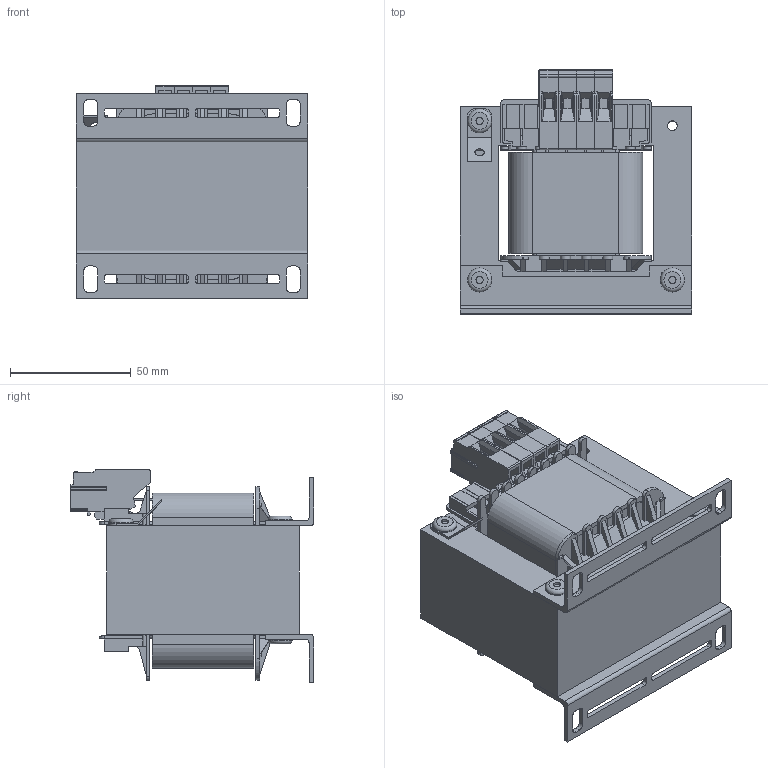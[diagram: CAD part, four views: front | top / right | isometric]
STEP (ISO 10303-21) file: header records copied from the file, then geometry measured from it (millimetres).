
FILE_DESCRIPTION(('FreeCAD Model'),'2;1');
FILE_NAME('C:/Users/segelbacher/Documents/FreeCAD/EPA/EPA1N-16_EDR3245/Step/EPA1N-16_EDR3245.step','2018-05-15T17:18:56',('Author'),('' ),'Open CASCADE STEP processor 6.8','FreeCAD','Unknown');
FILE_SCHEMA(('AUTOMOTIVE_DESIGN_CC2 { 1 2 10303 214 -1 1 5 4 }'));
Length unit declared in the file: millimetre
Products named in the file (21): ASSEMBLY; Kern_EI9645; Spulen_K; Wdg_ISO; CU_Wdg; Fillet003; Fillet002; PE_Blech001; Clone_of_Fillet002; Clone_of_Fillet003; Clone_of_Clone_of_Fillet003; Clone_of_Clone_of_Fillet004; Clone_of_Clone_of_Clone_of_Fillet004; Zylinder001; Clone_of_Zylinder003; Clone_of_Zylinder004; Clone_of_Zylinder005; TK40_STEP001; Clone_of_TK40_STEP002; Clone_of_Clone_of_TK40_STEP001; Clone_of_TK40_STEP001
Assembly tree (20 placements, depth 2):
  ASSEMBLY
    Kern_EI9645
    Spulen_K
    Wdg_ISO
    CU_Wdg
    Fillet003
    Fillet002
    PE_Blech001
    Clone_of_Fillet002
    Clone_of_Fillet003
    Clone_of_Clone_of_Fillet003
    Clone_of_Clone_of_Fillet004
    Clone_of_Clone_of_Clone_of_Fillet004
    Zylinder001
    Clone_of_Zylinder003
    Clone_of_Zylinder004
    Clone_of_Zylinder005
    TK40_STEP001
    Clone_of_TK40_STEP002
    Clone_of_Clone_of_TK40_STEP001
    Clone_of_TK40_STEP001
Bounding box: 96 x 101.1 x 88.35 mm (x, y, z)
Volume: 422280.1 mm3; surface area: 146413.6 mm2
Topology: 20 solids, 20 shells, 1515 faces, 4288 edges, 2829 vertices
Faces by surface type: plane 1083, cylinder 386, extrusion 41, torus 5
Full cylindrical faces by diameter (mm): 1 x4, 3 x5, 4 x5, 10 x5
Entity records: 145023 total; most frequent: CARTESIAN_POINT 55765, DIRECTION 14606, VECTOR 9614, LINE 9573, ORIENTED_EDGE 8576, PCURVE 8576, DEFINITIONAL_REPRESENTATION 8576, EDGE_CURVE 4288
